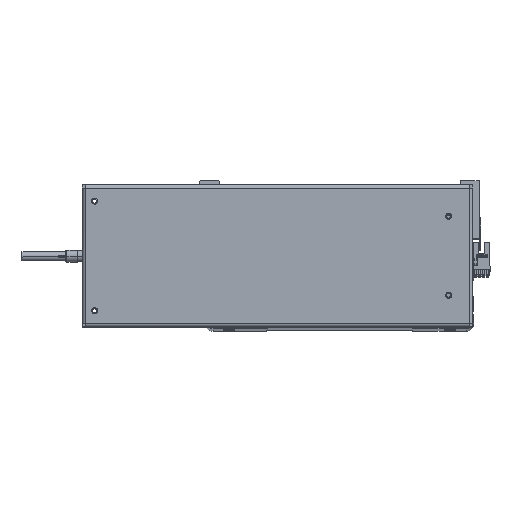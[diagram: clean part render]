
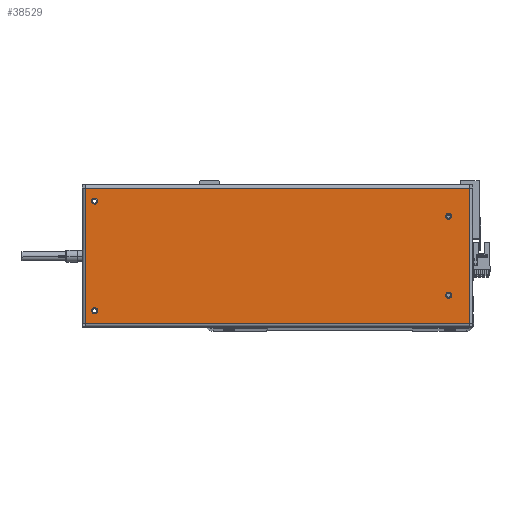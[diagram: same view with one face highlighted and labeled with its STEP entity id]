
A CAD part, top view. The second image highlights one B-rep face of the part: STEP entity #38529.
In plain terms, the highlighted planar face has unit normal (0, 0, 1).
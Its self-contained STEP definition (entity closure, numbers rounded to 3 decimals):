
#347 = ORIENTED_EDGE ( 'NONE', *, *, #1820, .T. ) ;
#671 = VERTEX_POINT ( 'NONE', #26427 ) ;
#1035 = EDGE_LOOP ( 'NONE', ( #20688, #14529 ) ) ;
#1820 = EDGE_CURVE ( 'NONE', #35921, #20484, #33621, .T. ) ;
#2854 = LINE ( 'NONE', #32129, #27212 ) ;
#2867 = VECTOR ( 'NONE', #17324, 1000. ) ;
#2971 = VECTOR ( 'NONE', #39725, 1000. ) ;
#3115 = DIRECTION ( 'NONE',  ( 0., 0., 1. ) ) ;
#3204 = FACE_BOUND ( 'NONE', #13346, .T. ) ;
#4008 = EDGE_CURVE ( 'NONE', #28592, #21695, #6788, .T. ) ;
#4204 = FACE_BOUND ( 'NONE', #1035, .T. ) ;
#4667 = CARTESIAN_POINT ( 'NONE',  ( 157.7, 55.6, 0. ) ) ;
#5824 = ORIENTED_EDGE ( 'NONE', *, *, #17724, .F. ) ;
#5834 = AXIS2_PLACEMENT_3D ( 'NONE', #39817, #27386, #33103 ) ;
#6271 = CARTESIAN_POINT ( 'NONE',  ( -140.5, 32.5, 0. ) ) ;
#6459 = CARTESIAN_POINT ( 'NONE',  ( -143., 32.5, 0. ) ) ;
#6788 = LINE ( 'NONE', #23530, #2867 ) ;
#7351 = PLANE ( 'NONE',  #12163 ) ;
#7603 = DIRECTION ( 'NONE',  ( 1., 0., 0. ) ) ;
#7683 = ORIENTED_EDGE ( 'NONE', *, *, #23090, .F. ) ;
#7774 = CARTESIAN_POINT ( 'NONE',  ( 148., 45., 0. ) ) ;
#7900 = DIRECTION ( 'NONE',  ( 0., 0., 1. ) ) ;
#8244 = DIRECTION ( 'NONE',  ( 0., 0., 1. ) ) ;
#8980 = CARTESIAN_POINT ( 'NONE',  ( 153., 45., 0. ) ) ;
#9349 = AXIS2_PLACEMENT_3D ( 'NONE', #6271, #3115, #9541 ) ;
#9541 = DIRECTION ( 'NONE',  ( 1., 0., 0. ) ) ;
#9833 = VERTEX_POINT ( 'NONE', #17907 ) ;
#10182 = CIRCLE ( 'NONE', #27419, 2.5 ) ;
#10255 = CARTESIAN_POINT ( 'NONE',  ( 157.7, 58.5, 0. ) ) ;
#10444 = CARTESIAN_POINT ( 'NONE',  ( 157.6, 55.6, 0. ) ) ;
#10535 = ORIENTED_EDGE ( 'NONE', *, *, #36709, .T. ) ;
#10574 = FACE_BOUND ( 'NONE', #37889, .T. ) ;
#12163 = AXIS2_PLACEMENT_3D ( 'NONE', #10255, #13485, #16877 ) ;
#12333 = VERTEX_POINT ( 'NONE', #8980 ) ;
#12482 = FACE_BOUND ( 'NONE', #15571, .T. ) ;
#13170 = CIRCLE ( 'NONE', #29309, 2.5 ) ;
#13346 = EDGE_LOOP ( 'NONE', ( #27593, #15169 ) ) ;
#13485 = DIRECTION ( 'NONE',  ( 0., 0., -1. ) ) ;
#14059 = CARTESIAN_POINT ( 'NONE',  ( 148., -45., 0. ) ) ;
#14323 = DIRECTION ( 'NONE',  ( 1., 0., 0. ) ) ;
#14529 = ORIENTED_EDGE ( 'NONE', *, *, #31580, .F. ) ;
#15169 = ORIENTED_EDGE ( 'NONE', *, *, #34015, .F. ) ;
#15479 = VERTEX_POINT ( 'NONE', #14059 ) ;
#15571 = EDGE_LOOP ( 'NONE', ( #7683, #5824 ) ) ;
#16385 = ORIENTED_EDGE ( 'NONE', *, *, #33152, .F. ) ;
#16396 = DIRECTION ( 'NONE',  ( 1., 0., 0. ) ) ;
#16408 = LINE ( 'NONE', #4667, #40254 ) ;
#16877 = DIRECTION ( 'NONE',  ( -1., 0., 0. ) ) ;
#17134 = ORIENTED_EDGE ( 'NONE', *, *, #38158, .T. ) ;
#17324 = DIRECTION ( 'NONE',  ( 0., 1., 0. ) ) ;
#17465 = CIRCLE ( 'NONE', #30703, 2.5 ) ;
#17692 = EDGE_CURVE ( 'NONE', #21324, #12333, #36102, .T. ) ;
#17724 = EDGE_CURVE ( 'NONE', #15479, #671, #22024, .T. ) ;
#17907 = CARTESIAN_POINT ( 'NONE',  ( -143., -32.5, 0. ) ) ;
#18078 = CARTESIAN_POINT ( 'NONE',  ( -157.6, 55.6, 0. ) ) ;
#18255 = CARTESIAN_POINT ( 'NONE',  ( -138., 32.5, 0. ) ) ;
#18424 = CARTESIAN_POINT ( 'NONE',  ( 157.6, -55.6, 0. ) ) ;
#18512 = AXIS2_PLACEMENT_3D ( 'NONE', #24597, #30720, #40033 ) ;
#18528 = ORIENTED_EDGE ( 'NONE', *, *, #4008, .T. ) ;
#18572 = AXIS2_PLACEMENT_3D ( 'NONE', #20990, #8244, #36650 ) ;
#18698 = VERTEX_POINT ( 'NONE', #18255 ) ;
#19109 = EDGE_LOOP ( 'NONE', ( #347, #10535, #18528, #17134 ) ) ;
#19878 = DIRECTION ( 'NONE',  ( -1., 0., 0. ) ) ;
#19981 = DIRECTION ( 'NONE',  ( 0., 0., 1. ) ) ;
#20021 = AXIS2_PLACEMENT_3D ( 'NONE', #20217, #20085, #7603 ) ;
#20085 = DIRECTION ( 'NONE',  ( 0., 0., 1. ) ) ;
#20108 = DIRECTION ( 'NONE',  ( 1., 0., 0. ) ) ;
#20217 = CARTESIAN_POINT ( 'NONE',  ( 150.5, 45., 0. ) ) ;
#20259 = CIRCLE ( 'NONE', #9349, 2.5 ) ;
#20484 = VERTEX_POINT ( 'NONE', #40002 ) ;
#20688 = ORIENTED_EDGE ( 'NONE', *, *, #26492, .F. ) ;
#20990 = CARTESIAN_POINT ( 'NONE',  ( 150.5, -45., 0. ) ) ;
#21324 = VERTEX_POINT ( 'NONE', #7774 ) ;
#21695 = VERTEX_POINT ( 'NONE', #10444 ) ;
#22024 = CIRCLE ( 'NONE', #18572, 2.5 ) ;
#22674 = FACE_OUTER_BOUND ( 'NONE', #19109, .T. ) ;
#22864 = VERTEX_POINT ( 'NONE', #34616 ) ;
#23090 = EDGE_CURVE ( 'NONE', #671, #15479, #17465, .T. ) ;
#23132 = ORIENTED_EDGE ( 'NONE', *, *, #17692, .F. ) ;
#23530 = CARTESIAN_POINT ( 'NONE',  ( 157.6, -55.6, 0. ) ) ;
#24597 = CARTESIAN_POINT ( 'NONE',  ( -140.5, -32.5, 0. ) ) ;
#24819 = CARTESIAN_POINT ( 'NONE',  ( -140.5, -32.5, 0. ) ) ;
#26427 = CARTESIAN_POINT ( 'NONE',  ( 153., -45., 0. ) ) ;
#26492 = EDGE_CURVE ( 'NONE', #18698, #37846, #10182, .T. ) ;
#27212 = VECTOR ( 'NONE', #16396, 1000. ) ;
#27386 = DIRECTION ( 'NONE',  ( 0., 0., 1. ) ) ;
#27419 = AXIS2_PLACEMENT_3D ( 'NONE', #32630, #19981, #14323 ) ;
#27593 = ORIENTED_EDGE ( 'NONE', *, *, #29945, .F. ) ;
#28592 = VERTEX_POINT ( 'NONE', #18424 ) ;
#29309 = AXIS2_PLACEMENT_3D ( 'NONE', #24819, #31062, #33911 ) ;
#29945 = EDGE_CURVE ( 'NONE', #22864, #9833, #13170, .T. ) ;
#30703 = AXIS2_PLACEMENT_3D ( 'NONE', #39085, #7900, #20108 ) ;
#30720 = DIRECTION ( 'NONE',  ( 0., 0., 1. ) ) ;
#31062 = DIRECTION ( 'NONE',  ( 0., 0., 1. ) ) ;
#31580 = EDGE_CURVE ( 'NONE', #37846, #18698, #20259, .T. ) ;
#32129 = CARTESIAN_POINT ( 'NONE',  ( -157.7, -55.6, 0. ) ) ;
#32630 = CARTESIAN_POINT ( 'NONE',  ( -140.5, 32.5, 0. ) ) ;
#32810 = CIRCLE ( 'NONE', #20021, 2.5 ) ;
#33103 = DIRECTION ( 'NONE',  ( 1., 0., 0. ) ) ;
#33152 = EDGE_CURVE ( 'NONE', #12333, #21324, #32810, .T. ) ;
#33621 = LINE ( 'NONE', #18078, #2971 ) ;
#33911 = DIRECTION ( 'NONE',  ( 1., 0., 0. ) ) ;
#34015 = EDGE_CURVE ( 'NONE', #9833, #22864, #39128, .T. ) ;
#34616 = CARTESIAN_POINT ( 'NONE',  ( -138., -32.5, 0. ) ) ;
#35419 = CARTESIAN_POINT ( 'NONE',  ( -157.6, 55.6, 0. ) ) ;
#35921 = VERTEX_POINT ( 'NONE', #35419 ) ;
#36102 = CIRCLE ( 'NONE', #5834, 2.5 ) ;
#36650 = DIRECTION ( 'NONE',  ( 1., 0., 0. ) ) ;
#36709 = EDGE_CURVE ( 'NONE', #20484, #28592, #2854, .T. ) ;
#37846 = VERTEX_POINT ( 'NONE', #6459 ) ;
#37889 = EDGE_LOOP ( 'NONE', ( #16385, #23132 ) ) ;
#38158 = EDGE_CURVE ( 'NONE', #21695, #35921, #16408, .T. ) ;
#38529 = ADVANCED_FACE ( 'NONE', ( #3204, #4204, #12482, #10574, #22674 ), #7351, .F. ) ;
#39085 = CARTESIAN_POINT ( 'NONE',  ( 150.5, -45., 0. ) ) ;
#39128 = CIRCLE ( 'NONE', #18512, 2.5 ) ;
#39725 = DIRECTION ( 'NONE',  ( 0., -1., 0. ) ) ;
#39817 = CARTESIAN_POINT ( 'NONE',  ( 150.5, 45., 0. ) ) ;
#40002 = CARTESIAN_POINT ( 'NONE',  ( -157.6, -55.6, 0. ) ) ;
#40033 = DIRECTION ( 'NONE',  ( 1., 0., 0. ) ) ;
#40254 = VECTOR ( 'NONE', #19878, 1000. ) ;
